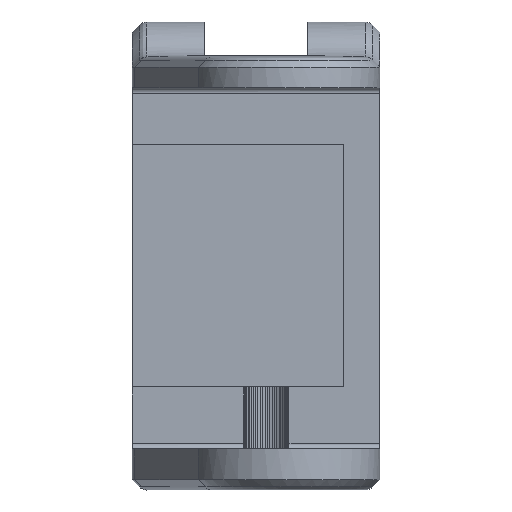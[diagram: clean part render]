
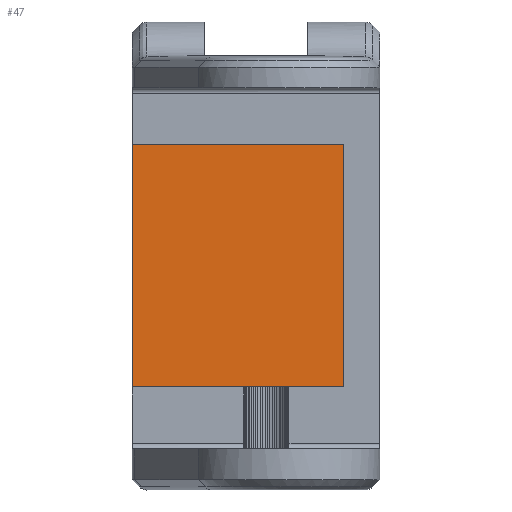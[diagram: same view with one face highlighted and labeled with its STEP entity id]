
A CAD part, left-side view. The second image highlights one B-rep face of the part: STEP entity #47.
In plain terms, the highlighted planar face has unit normal (-1, 0, 0).
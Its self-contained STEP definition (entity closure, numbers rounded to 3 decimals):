
#47=ADVANCED_FACE('',(#281),#4038,.T.);
#281=FACE_OUTER_BOUND('',#522,.T.);
#522=EDGE_LOOP('',(#1001,#1002,#1003,#1004));
#1001=ORIENTED_EDGE('',*,*,#2062,.T.);
#1002=ORIENTED_EDGE('',*,*,#2067,.F.);
#1003=ORIENTED_EDGE('',*,*,#2069,.T.);
#1004=ORIENTED_EDGE('',*,*,#2066,.T.);
#2062=EDGE_CURVE('',#3438,#3440,#2707,.T.);
#2066=EDGE_CURVE('',#3442,#3438,#2711,.T.);
#2067=EDGE_CURVE('',#3443,#3440,#2712,.T.);
#2069=EDGE_CURVE('',#3443,#3442,#2714,.T.);
#2707=B_SPLINE_CURVE_WITH_KNOTS('',1,(#6354,#6355),.UNSPECIFIED.,.F.,.F.,
(2,2),(12.5,36.),.UNSPECIFIED.);
#2711=B_SPLINE_CURVE_WITH_KNOTS('',1,(#6362,#6363),.UNSPECIFIED.,.F.,.F.,
(2,2),(0.,20.5),.UNSPECIFIED.);
#2712=B_SPLINE_CURVE_WITH_KNOTS('',1,(#6364,#6365),.UNSPECIFIED.,.F.,.F.,
(2,2),(0.,20.5),.UNSPECIFIED.);
#2714=B_SPLINE_CURVE_WITH_KNOTS('',1,(#6368,#6369),.UNSPECIFIED.,.F.,.F.,
(2,2),(336.084,359.584),.UNSPECIFIED.);
#3438=VERTEX_POINT('',#5898);
#3440=VERTEX_POINT('',#5900);
#3442=VERTEX_POINT('',#5902);
#3443=VERTEX_POINT('',#5903);
#4038=PLANE('',#4361);
#4361=AXIS2_PLACEMENT_3D('',#5739,#4646,$);
#4646=DIRECTION('',(-1.,0.,0.));
#5739=CARTESIAN_POINT('',(-471.154,-239.874,15.363));
#5898=CARTESIAN_POINT('',(-471.154,-260.374,15.363));
#5900=CARTESIAN_POINT('',(-471.154,-260.374,38.863));
#5902=CARTESIAN_POINT('',(-471.154,-239.874,15.363));
#5903=CARTESIAN_POINT('',(-471.154,-239.874,38.863));
#6354=CARTESIAN_POINT('',(-471.154,-260.374,15.363));
#6355=CARTESIAN_POINT('',(-471.154,-260.374,38.863));
#6362=CARTESIAN_POINT('',(-471.154,-239.874,15.363));
#6363=CARTESIAN_POINT('',(-471.154,-260.374,15.363));
#6364=CARTESIAN_POINT('',(-471.154,-239.874,38.863));
#6365=CARTESIAN_POINT('',(-471.154,-260.374,38.863));
#6368=CARTESIAN_POINT('',(-471.154,-239.874,38.863));
#6369=CARTESIAN_POINT('',(-471.154,-239.874,15.363));
